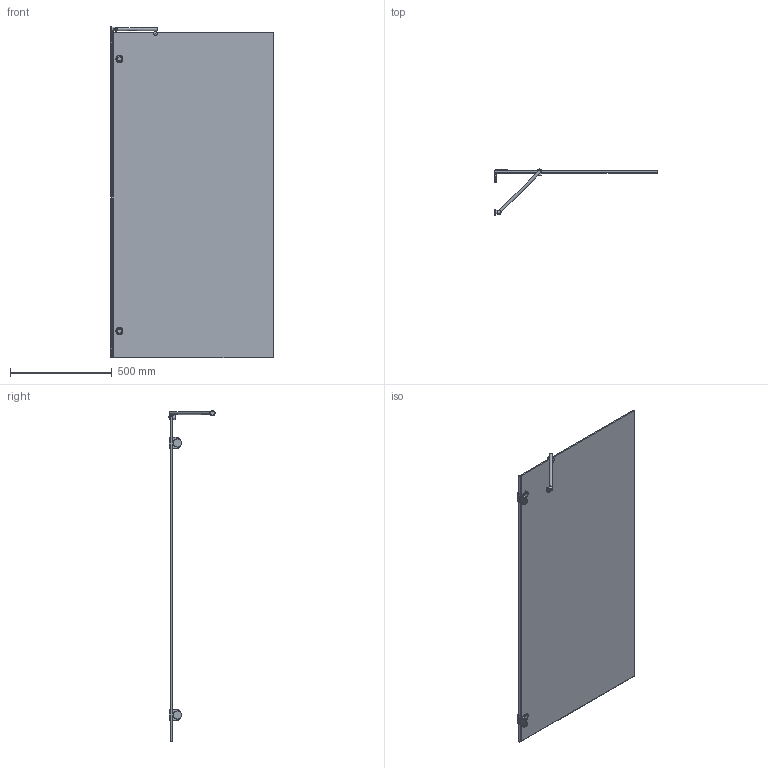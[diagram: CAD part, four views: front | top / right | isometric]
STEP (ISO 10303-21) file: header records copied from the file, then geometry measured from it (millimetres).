
FILE_DESCRIPTION(/* description */ (''),/* implementation_level */ '2;1');
FILE_NAME(/* name */ 'E:\Работа\Сергей\Душевые кабинки\! Работа\LUX PEARL GV-001A\LUX PEARL GV-001A правая модель\LUX PEARL GV-001A ПРАВАЯ-3D.stp',/* time_stamp */ '2018-02-21T20:25:56+03:00',/* author */ ('PC'),/* organization */ (''),/* preprocessor_version */ 'ST-DEVELOPER v15.2',/* originating_system */ 'Autodesk Inventor 2014',/* authorisation */ '');
FILE_SCHEMA (('AUTOMOTIVE_DESIGN { 1 0 10303 214 3 1 1 }'));
Length unit declared in the file: millimetre
Products named in the file (1): LUX PEARL GV-001A ПРАВАЯ-3D
Bounding box: 801 x 227.4 x 1631.5 mm (x, y, z)
Volume: 7895721.8 mm3; surface area: 2656405.8 mm2
Topology: 5 solids, 5 shells, 114 faces, 301 edges, 200 vertices
Faces by surface type: plane 69, cylinder 28, bspline 6, torus 5, sphere 4, cone 2
Full cylindrical faces by diameter (mm): 15 x1, 20 x2, 26 x1, 35 x2, 40 x2
Entity records: 3763 total; most frequent: CARTESIAN_POINT 844, DIRECTION 573, ORIENTED_EDGE 550, EDGE_CURVE 275, AXIS2_PLACEMENT_3D 202, VERTEX_POINT 191, LINE 169, VECTOR 169
